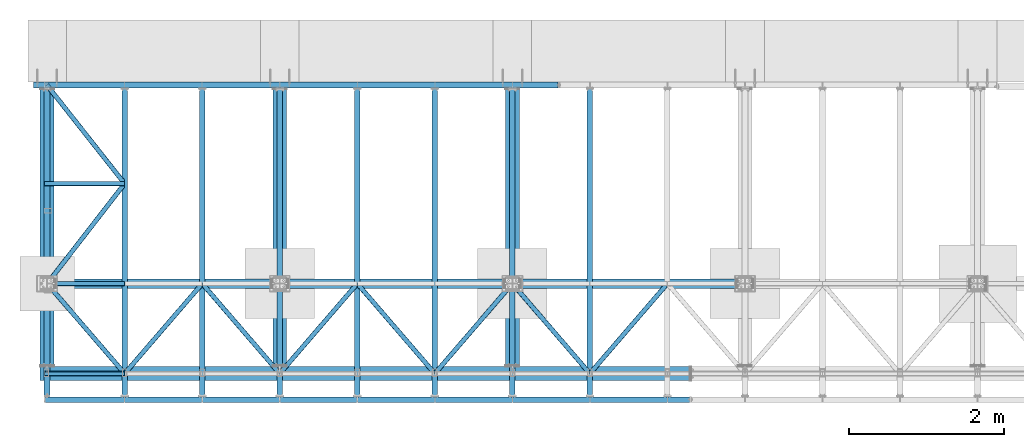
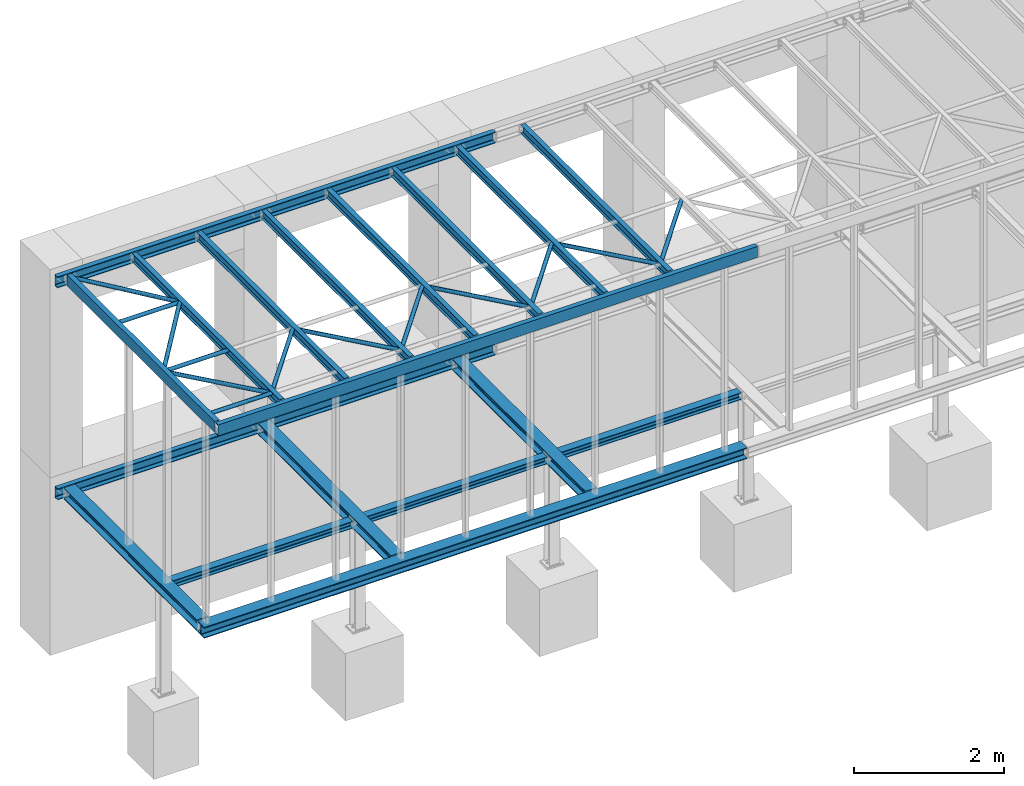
# One storey, part 3 of 23: 31 beams, 31 elements without a shape of their own.
"""IFC2X3 building model written with IfcOpenShell, lengths in millimetres."""

from ifc_helpers import new_model, si_unit, frame, origin_with_axes, origin_2d_with_axis, place, context, subcontext, project, spatial, hollow_circle, i_section, u_section, extrude, boolean, halfspace, material, type_object, element, aggregate, save


model = new_model("IFC2X3")

# Units and contexts
model_context = context("Model", 3, precision=1e-05, world=origin_with_axes())
body_context = subcontext(model_context, "Body", "Model", "MODEL_VIEW")
ifc_project = project(units=[si_unit("LENGTHUNIT", "METRE", prefix="MILLI"), si_unit("AREAUNIT", "SQUARE_METRE"), si_unit("VOLUMEUNIT", "CUBIC_METRE"), si_unit("MASSUNIT", "GRAM", prefix="KILO"), si_unit("TIMEUNIT", "SECOND"), si_unit("PLANEANGLEUNIT", "RADIAN"), si_unit("SOLIDANGLEUNIT", "STERADIAN"), si_unit("THERMODYNAMICTEMPERATUREUNIT", "DEGREE_CELSIUS"), si_unit("LUMINOUSINTENSITYUNIT", "LUMEN")], contexts=[model_context])

# Site, building, storey
site_placement = place(None, origin_with_axes())
site = spatial("IfcSite", under=ifc_project, at=site_placement, Name="Undefined", CompositionType="ELEMENT")
building_placement = place(site_placement, origin_with_axes())
building = spatial("IfcBuilding", under=site, at=building_placement, Name="Undefined", CompositionType="ELEMENT")
storey_placement = place(building_placement, origin_with_axes())
storey = spatial("IfcBuildingStorey", under=building, at=storey_placement, Name="Undefined", CompositionType="ELEMENT", Elevation=0.0)

# Assembly, beam
assembly_1_placement = place(storey_placement, origin_with_axes())
assembly_1 = element("IfcElementAssembly", 1, at=assembly_1_placement, inside=storey, Name="Steel Assembly", AssemblyPlace="NOTDEFINED", PredefinedType="RIGID_FRAME")
ifc_material = material(Name="STEEL/S235JR")
beam_type_1 = type_object("IfcBeamType", Name="CHS60.3*5", PredefinedType="NOTDEFINED")
beam_1_placement = place(assembly_1_placement, frame((15.5, 2550.0, 3230.0), z_axis=(0.0, 0.0, -1.0), x_axis=(1.0, 0.0, 0.0)))
beam_1 = element("IfcBeam", 2, at=beam_1_placement, type_object=beam_type_1, material=ifc_material, Name="NOSNÍK", ObjectType="CHS60.3*5", context=body_context, shape_type="SweptSolid", body=[
    extrude(hollow_circle(Radius=30.15, WallThickness=5.0, at=origin_2d_with_axis()), frame((1034.5, 0.0, 0.0), z_axis=(-1.0, 0.0, 0.0), x_axis=(0.0, -1.0, 0.0)), (0.0, 0.0, 1.0), 1034.5),
])
aggregate(assembly_1, [beam_1])

assembly_2_placement = place(storey_placement, origin_with_axes())
assembly_2 = element("IfcElementAssembly", 3, at=assembly_2_placement, inside=storey, Name="Steel Assembly", AssemblyPlace="NOTDEFINED", PredefinedType="RIGID_FRAME")
beam_2_placement = place(assembly_2_placement, frame((7050.0, 100.0, 3230.0), z_axis=(0.0, 0.0, -1.0), x_axis=(0.652939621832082, 0.757409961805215, 0.0)))
beam_2 = element("IfcBeam", 4, at=beam_2_placement, type_object=beam_type_1, material=ifc_material, Name="NOSNÍK", ObjectType="CHS60.3*5", context=body_context, shape_type="CSG", body=[
    boolean("DIFFERENCE", boolean("DIFFERENCE", boolean("DIFFERENCE", boolean("DIFFERENCE", extrude(hollow_circle(Radius=30.15, WallThickness=5.0, at=origin_2d_with_axis()), frame((1531.53517752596, -1.81898940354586e-12, 0.0), z_axis=(-1.0, 0.0, 0.0), x_axis=(0.0, -1.0, 0.0)), (0.0, 0.0, 1.0), 1531.5), extrude(hollow_circle(Radius=30.15, WallThickness=5.0, at=origin_2d_with_axis()), frame((1530.00076941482, -1.77991293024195, 0.0), z_axis=(-0.652939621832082, -0.757409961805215, 0.0), x_axis=(0.757409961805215, -0.652939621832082, 0.0)), (0.0, 0.0, 1.0), 995.3)), extrude(hollow_circle(Radius=30.15, WallThickness=5.0, at=origin_2d_with_axis()), frame((651.405213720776, 755.630048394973, 0.0), z_axis=(-0.652939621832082, -0.757409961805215, 0.0), x_axis=(0.757409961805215, -0.652939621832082, 0.0)), (0.0, 0.0, 1.0), 995.3)), halfspace(frame((1562.9100704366, -30.1499999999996, -30.1500000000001), z_axis=(0.652939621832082, 0.757409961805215, 0.0), x_axis=(0.0, 0.0, 1.0)), False)), halfspace(frame((-31.3748924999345, 30.1499999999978, -30.1500000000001), z_axis=(-0.652939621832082, -0.757409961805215, 0.0), x_axis=(0.0, 0.0, 1.0)), False)),
])
aggregate(assembly_2, [beam_2])

assembly_3_placement = place(storey_placement, origin_with_axes())
assembly_3 = element("IfcElementAssembly", 5, at=assembly_3_placement, inside=storey, Name="Steel Assembly", AssemblyPlace="NOTDEFINED", PredefinedType="RIGID_FRAME")
beam_3_placement = place(assembly_3_placement, frame((6049.99999972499, 1260.00000021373, 3230.0), z_axis=(0.0, 0.0, -1.0), x_axis=(0.652939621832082, -0.757409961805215, 0.0)))
beam_3 = element("IfcBeam", 6, at=beam_3_placement, type_object=beam_type_1, material=ifc_material, Name="NOSNÍK", ObjectType="CHS60.3*5", context=body_context, shape_type="CSG", body=[
    boolean("DIFFERENCE", boolean("DIFFERENCE", boolean("DIFFERENCE", boolean("DIFFERENCE", extrude(hollow_circle(Radius=30.15, WallThickness=5.0, at=origin_2d_with_axis()), frame((1531.53517752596, -1.81898940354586e-12, 0.0), z_axis=(-1.0, 0.0, 0.0), x_axis=(0.0, -1.0, 0.0)), (0.0, 0.0, 1.0), 1531.5), extrude(hollow_circle(Radius=30.15, WallThickness=5.0, at=origin_2d_with_axis()), frame((651.405214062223, -755.630048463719, 0.0), z_axis=(-0.652939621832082, 0.757409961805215, 0.0), x_axis=(-0.757409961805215, -0.652939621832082, 0.0)), (0.0, 0.0, 1.0), 995.3)), extrude(hollow_circle(Radius=30.15, WallThickness=5.0, at=origin_2d_with_axis()), frame((1530.00076975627, 1.77991286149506, 9.09494701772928e-13), z_axis=(-0.652939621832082, 0.757409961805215, 0.0), x_axis=(-0.757409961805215, -0.652939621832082, 0.0)), (0.0, 0.0, 1.0), 995.3)), halfspace(frame((38.5731081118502, 30.1499999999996, -30.1499999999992), z_axis=(-0.652939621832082, 0.757409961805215, 0.0), x_axis=(0.0, 0.0, 1.0)), False)), halfspace(frame((1562.91007051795, 30.1499999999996, 30.150000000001), z_axis=(0.652939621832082, -0.757409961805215, 0.0), x_axis=(0.0, 0.0, -1.0)), False)),
])
aggregate(assembly_3, [beam_3])

assembly_4_placement = place(storey_placement, origin_with_axes())
assembly_4 = element("IfcElementAssembly", 7, at=assembly_4_placement, inside=storey, Name="Steel Assembly", AssemblyPlace="NOTDEFINED", PredefinedType="RIGID_FRAME")
beam_4_placement = place(assembly_4_placement, frame((5050.0, 100.0, 3230.0), z_axis=(0.0, 0.0, -1.0), x_axis=(0.652939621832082, 0.757409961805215, 0.0)))
beam_4 = element("IfcBeam", 8, at=beam_4_placement, type_object=beam_type_1, material=ifc_material, Name="NOSNÍK", ObjectType="CHS60.3*5", context=body_context, shape_type="CSG", body=[
    boolean("DIFFERENCE", boolean("DIFFERENCE", boolean("DIFFERENCE", boolean("DIFFERENCE", extrude(hollow_circle(Radius=30.15, WallThickness=5.0, at=origin_2d_with_axis()), frame((1531.53517752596, -1.81898940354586e-12, 0.0), z_axis=(-1.0, 0.0, 0.0), x_axis=(0.0, -1.0, 0.0)), (0.0, 0.0, 1.0), 1531.5), extrude(hollow_circle(Radius=30.15, WallThickness=5.0, at=origin_2d_with_axis()), frame((1530.00076941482, -1.77991293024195, 0.0), z_axis=(-0.652939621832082, -0.757409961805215, 0.0), x_axis=(0.757409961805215, -0.652939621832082, 0.0)), (0.0, 0.0, 1.0), 995.3)), extrude(hollow_circle(Radius=30.15, WallThickness=5.0, at=origin_2d_with_axis()), frame((651.405213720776, 755.630048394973, 0.0), z_axis=(-0.652939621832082, -0.757409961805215, 0.0), x_axis=(0.757409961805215, -0.652939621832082, 0.0)), (0.0, 0.0, 1.0), 995.3)), halfspace(frame((1562.9100704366, -30.1499999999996, -30.1500000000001), z_axis=(0.652939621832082, 0.757409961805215, 0.0), x_axis=(0.0, 0.0, 1.0)), False)), halfspace(frame((-31.3748924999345, 30.1499999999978, -30.1500000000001), z_axis=(-0.652939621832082, -0.757409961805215, 0.0), x_axis=(0.0, 0.0, 1.0)), False)),
])
aggregate(assembly_4, [beam_4])

assembly_5_placement = place(storey_placement, origin_with_axes())
assembly_5 = element("IfcElementAssembly", 9, at=assembly_5_placement, inside=storey, Name="Steel Assembly", AssemblyPlace="NOTDEFINED", PredefinedType="RIGID_FRAME")
beam_5_placement = place(assembly_5_placement, frame((4049.99999972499, 1260.00000021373, 3230.0), z_axis=(0.0, 0.0, -1.0), x_axis=(0.652939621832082, -0.757409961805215, 0.0)))
beam_5 = element("IfcBeam", 10, at=beam_5_placement, type_object=beam_type_1, material=ifc_material, Name="NOSNÍK", ObjectType="CHS60.3*5", context=body_context, shape_type="CSG", body=[
    boolean("DIFFERENCE", boolean("DIFFERENCE", boolean("DIFFERENCE", boolean("DIFFERENCE", extrude(hollow_circle(Radius=30.15, WallThickness=5.0, at=origin_2d_with_axis()), frame((1531.53517752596, -1.81898940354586e-12, 0.0), z_axis=(-1.0, 0.0, 0.0), x_axis=(0.0, -1.0, 0.0)), (0.0, 0.0, 1.0), 1531.5), extrude(hollow_circle(Radius=30.15, WallThickness=5.0, at=origin_2d_with_axis()), frame((651.405214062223, -755.630048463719, 0.0), z_axis=(-0.652939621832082, 0.757409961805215, 0.0), x_axis=(-0.757409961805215, -0.652939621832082, 0.0)), (0.0, 0.0, 1.0), 995.3)), extrude(hollow_circle(Radius=30.15, WallThickness=5.0, at=origin_2d_with_axis()), frame((1530.00076975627, 1.77991286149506, 9.09494701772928e-13), z_axis=(-0.652939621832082, 0.757409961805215, 0.0), x_axis=(-0.757409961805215, -0.652939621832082, 0.0)), (0.0, 0.0, 1.0), 995.3)), halfspace(frame((38.5731081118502, 30.1499999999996, -30.1499999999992), z_axis=(-0.652939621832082, 0.757409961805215, 0.0), x_axis=(0.0, 0.0, 1.0)), False)), halfspace(frame((1562.91007051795, 30.1499999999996, 30.150000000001), z_axis=(0.652939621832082, -0.757409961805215, 0.0), x_axis=(0.0, 0.0, -1.0)), False)),
])
aggregate(assembly_5, [beam_5])

assembly_6_placement = place(storey_placement, origin_with_axes())
assembly_6 = element("IfcElementAssembly", 11, at=assembly_6_placement, inside=storey, Name="Steel Assembly", AssemblyPlace="NOTDEFINED", PredefinedType="RIGID_FRAME")
beam_6_placement = place(assembly_6_placement, frame((3050.0, 100.0, 3230.0), z_axis=(0.0, 0.0, -1.0), x_axis=(0.652939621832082, 0.757409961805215, 0.0)))
beam_6 = element("IfcBeam", 12, at=beam_6_placement, type_object=beam_type_1, material=ifc_material, Name="NOSNÍK", ObjectType="CHS60.3*5", context=body_context, shape_type="CSG", body=[
    boolean("DIFFERENCE", boolean("DIFFERENCE", boolean("DIFFERENCE", boolean("DIFFERENCE", extrude(hollow_circle(Radius=30.15, WallThickness=5.0, at=origin_2d_with_axis()), frame((1531.53517752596, -1.81898940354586e-12, 0.0), z_axis=(-1.0, 0.0, 0.0), x_axis=(0.0, -1.0, 0.0)), (0.0, 0.0, 1.0), 1531.5), extrude(hollow_circle(Radius=30.15, WallThickness=5.0, at=origin_2d_with_axis()), frame((1530.00076941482, -1.77991293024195, 0.0), z_axis=(-0.652939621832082, -0.757409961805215, 0.0), x_axis=(0.757409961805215, -0.652939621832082, 0.0)), (0.0, 0.0, 1.0), 995.3)), extrude(hollow_circle(Radius=30.15, WallThickness=5.0, at=origin_2d_with_axis()), frame((651.405213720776, 755.630048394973, 0.0), z_axis=(-0.652939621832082, -0.757409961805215, 0.0), x_axis=(0.757409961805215, -0.652939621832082, 0.0)), (0.0, 0.0, 1.0), 995.3)), halfspace(frame((1562.9100704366, -30.1499999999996, -30.1500000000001), z_axis=(0.652939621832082, 0.757409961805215, 0.0), x_axis=(0.0, 0.0, 1.0)), False)), halfspace(frame((-31.3748924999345, 30.1499999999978, -30.1500000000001), z_axis=(-0.652939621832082, -0.757409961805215, 0.0), x_axis=(0.0, 0.0, 1.0)), False)),
])
aggregate(assembly_6, [beam_6])

assembly_7_placement = place(storey_placement, origin_with_axes())
assembly_7 = element("IfcElementAssembly", 13, at=assembly_7_placement, inside=storey, Name="Steel Assembly", AssemblyPlace="NOTDEFINED", PredefinedType="RIGID_FRAME")
beam_7_placement = place(assembly_7_placement, frame((2049.99999972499, 1260.00000021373, 3230.0), z_axis=(0.0, 0.0, -1.0), x_axis=(0.652939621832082, -0.757409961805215, 0.0)))
beam_7 = element("IfcBeam", 14, at=beam_7_placement, type_object=beam_type_1, material=ifc_material, Name="NOSNÍK", ObjectType="CHS60.3*5", context=body_context, shape_type="CSG", body=[
    boolean("DIFFERENCE", boolean("DIFFERENCE", boolean("DIFFERENCE", boolean("DIFFERENCE", extrude(hollow_circle(Radius=30.15, WallThickness=5.0, at=origin_2d_with_axis()), frame((1531.53517752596, -1.81898940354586e-12, 0.0), z_axis=(-1.0, 0.0, 0.0), x_axis=(0.0, -1.0, 0.0)), (0.0, 0.0, 1.0), 1531.5), extrude(hollow_circle(Radius=30.15, WallThickness=5.0, at=origin_2d_with_axis()), frame((651.405214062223, -755.630048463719, 0.0), z_axis=(-0.652939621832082, 0.757409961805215, 0.0), x_axis=(-0.757409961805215, -0.652939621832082, 0.0)), (0.0, 0.0, 1.0), 995.3)), extrude(hollow_circle(Radius=30.15, WallThickness=5.0, at=origin_2d_with_axis()), frame((1530.00076975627, 1.77991286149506, 9.09494701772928e-13), z_axis=(-0.652939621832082, 0.757409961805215, 0.0), x_axis=(-0.757409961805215, -0.652939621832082, 0.0)), (0.0, 0.0, 1.0), 995.3)), halfspace(frame((38.5731081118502, 30.1499999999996, -30.1499999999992), z_axis=(-0.652939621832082, 0.757409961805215, 0.0), x_axis=(0.0, 0.0, 1.0)), False)), halfspace(frame((1562.91007051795, 30.1499999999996, 30.150000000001), z_axis=(0.652939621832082, -0.757409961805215, 0.0), x_axis=(0.0, 0.0, -1.0)), False)),
])
aggregate(assembly_7, [beam_7])

assembly_8_placement = place(storey_placement, origin_with_axes())
assembly_8 = element("IfcElementAssembly", 15, at=assembly_8_placement, inside=storey, Name="Steel Assembly", AssemblyPlace="NOTDEFINED", PredefinedType="RIGID_FRAME")
beam_8_placement = place(assembly_8_placement, frame((1050.0, 100.0, 3230.0), z_axis=(0.0, 0.0, -1.0), x_axis=(0.652939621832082, 0.757409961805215, 0.0)))
beam_8 = element("IfcBeam", 16, at=beam_8_placement, type_object=beam_type_1, material=ifc_material, Name="NOSNÍK", ObjectType="CHS60.3*5", context=body_context, shape_type="CSG", body=[
    boolean("DIFFERENCE", boolean("DIFFERENCE", boolean("DIFFERENCE", boolean("DIFFERENCE", extrude(hollow_circle(Radius=30.15, WallThickness=5.0, at=origin_2d_with_axis()), frame((1531.53517752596, -1.81898940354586e-12, 0.0), z_axis=(-1.0, 0.0, 0.0), x_axis=(0.0, -1.0, 0.0)), (0.0, 0.0, 1.0), 1531.5), extrude(hollow_circle(Radius=30.15, WallThickness=5.0, at=origin_2d_with_axis()), frame((1530.00076941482, -1.77991293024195, 0.0), z_axis=(-0.652939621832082, -0.757409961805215, 0.0), x_axis=(0.757409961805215, -0.652939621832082, 0.0)), (0.0, 0.0, 1.0), 995.3)), extrude(hollow_circle(Radius=30.15, WallThickness=5.0, at=origin_2d_with_axis()), frame((652.939621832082, 757.409961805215, 9.09494701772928e-13), z_axis=(-0.652939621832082, -0.757409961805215, 0.0), x_axis=(0.757409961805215, -0.652939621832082, 0.0)), (0.0, 0.0, 1.0), 997.7)), halfspace(frame((1562.9100704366, -30.1499999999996, -30.1500000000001), z_axis=(0.652939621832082, 0.757409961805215, 0.0), x_axis=(0.0, 0.0, 1.0)), False)), halfspace(frame((-31.3748924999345, 30.1499999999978, -30.1500000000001), z_axis=(-0.652939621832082, -0.757409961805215, 0.0), x_axis=(0.0, 0.0, 1.0)), False)),
])
aggregate(assembly_8, [beam_8])

assembly_9_placement = place(storey_placement, origin_with_axes())
assembly_9 = element("IfcElementAssembly", 17, at=assembly_9_placement, inside=storey, Name="Steel Assembly", AssemblyPlace="NOTDEFINED", PredefinedType="RIGID_FRAME")
beam_9_placement = place(assembly_9_placement, frame((53.4274012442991, 1256.00000021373, 3230.0), z_axis=(0.0, 0.0, -1.0), x_axis=(0.652939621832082, -0.757409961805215, 0.0)))
beam_9 = element("IfcBeam", 18, at=beam_9_placement, type_object=beam_type_1, material=ifc_material, Name="NOSNÍK", ObjectType="CHS60.3*5", context=body_context, shape_type="CSG", body=[
    boolean("DIFFERENCE", boolean("DIFFERENCE", boolean("DIFFERENCE", extrude(hollow_circle(Radius=30.15, WallThickness=5.0, at=origin_2d_with_axis()), frame((1531.53517752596, -1.81898940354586e-12, 0.0), z_axis=(-1.0, 0.0, 0.0), x_axis=(0.0, -1.0, 0.0)), (0.0, 0.0, 1.0), 1531.5), extrude(hollow_circle(Radius=30.15, WallThickness=5.0, at=origin_2d_with_axis()), frame((1524.73324365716, 1.76410242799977, 4.54747350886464e-13), z_axis=(-0.652939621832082, 0.757409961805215, 0.0), x_axis=(-0.757409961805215, -0.652939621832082, 0.0)), (0.0, 0.0, 1.0), 1032.2)), extrude(hollow_circle(Radius=30.15, WallThickness=5.0, at=origin_2d_with_axis()), frame((647.67209607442, -757.425772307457, 4.54747350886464e-13), z_axis=(-0.652939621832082, 0.757409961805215, 0.0), x_axis=(-0.757409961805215, -0.652939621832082, 0.0)), (0.0, 0.0, 1.0), 1034.5)), halfspace(frame((1557.66088500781, 30.1500000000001, 30.1500000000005), z_axis=(0.652939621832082, -0.757409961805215, 0.0), x_axis=(0.0, 0.0, -1.0)), False)),
])
aggregate(assembly_9, [beam_9])

assembly_10_placement = place(storey_placement, origin_with_axes())
assembly_10 = element("IfcElementAssembly", 19, at=assembly_10_placement, inside=storey, Name="Steel Assembly", AssemblyPlace="NOTDEFINED", PredefinedType="RIGID_FRAME")
beam_10_placement = place(assembly_10_placement, frame((15.5, 100.0, 3230.0), z_axis=(0.0, 0.0, -1.0), x_axis=(1.0, 0.0, 0.0)))
beam_10 = element("IfcBeam", 20, at=beam_10_placement, type_object=beam_type_1, material=ifc_material, Name="NOSNÍK", ObjectType="CHS60.3*5", context=body_context, shape_type="SweptSolid", body=[
    extrude(hollow_circle(Radius=30.15, WallThickness=5.0, at=origin_2d_with_axis()), frame((1032.15, 0.0, 0.0), z_axis=(-1.0, 0.0, 0.0), x_axis=(0.0, -1.0, 0.0)), (0.0, 0.0, 1.0), 1032.2),
])
aggregate(assembly_10, [beam_10])

assembly_11_placement = place(storey_placement, origin_with_axes())
assembly_11 = element("IfcElementAssembly", 21, at=assembly_11_placement, inside=storey, Name="Steel Assembly", AssemblyPlace="NOTDEFINED", PredefinedType="RIGID_FRAME")
beam_11_placement = place(assembly_11_placement, frame((1050.00000007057, 2550.00000005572, 3230.00000000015), z_axis=(0.0, 0.0, 1.0), x_axis=(-0.612667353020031, -0.79034088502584, 0.0)))
beam_11 = element("IfcBeam", 22, at=beam_11_placement, type_object=beam_type_1, material=ifc_material, Name="NOSNÍK", ObjectType="CHS60.3*5", context=body_context, shape_type="CSG", body=[
    boolean("DIFFERENCE", boolean("DIFFERENCE", boolean("DIFFERENCE", extrude(hollow_circle(Radius=30.15, WallThickness=5.0, at=origin_2d_with_axis()), frame((1632.20709478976, -2.71817084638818e-13, 0.0), z_axis=(-1.0, 0.0, 0.0), x_axis=(0.0, -1.0, 0.0)), (0.0, 0.0, 1.0), 1632.2), extrude(hollow_circle(Radius=30.15, WallThickness=5.0, at=origin_2d_with_axis()), frame((1019.5397417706, 790.340885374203, -1.50976120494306e-10), z_axis=(0.612667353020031, -0.79034088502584, 0.0), x_axis=(-0.79034088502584, -0.612667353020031, 0.0)), (0.0, 0.0, 1.0), 1034.5)), extrude(hollow_circle(Radius=30.15, WallThickness=5.0, at=origin_2d_with_axis()), frame((0.0, 0.0, 0.0), z_axis=(0.612667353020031, -0.79034088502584, 0.0), x_axis=(-0.79034088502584, -0.612667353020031, 0.0)), (0.0, 0.0, 1.0), 1034.5)), halfspace(frame((42.7291866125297, 30.15, -30.1500000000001), z_axis=(-0.612667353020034, 0.790340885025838, 0.0), x_axis=(0.0, 0.0, 1.0)), False)),
])
aggregate(assembly_11, [beam_11])

assembly_12_placement = place(storey_placement, origin_with_axes())
assembly_12 = element("IfcElementAssembly", 23, at=assembly_12_placement, inside=storey, Name="Steel Assembly", AssemblyPlace="NOTDEFINED", PredefinedType="RIGID_FRAME")
beam_12_placement = place(assembly_12_placement, frame((47.5000000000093, 3820.0, 3230.0), z_axis=(0.0, 0.0, -1.0), x_axis=(0.619594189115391, -0.784922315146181, 0.0)))
beam_12 = element("IfcBeam", 24, at=beam_12_placement, type_object=beam_type_1, material=ifc_material, Name="NOSNÍK", ObjectType="CHS60.3*5", context=body_context, shape_type="CSG", body=[
    boolean("DIFFERENCE", boolean("DIFFERENCE", extrude(hollow_circle(Radius=30.15, WallThickness=5.0, at=origin_2d_with_axis()), frame((1617.99451482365, 0.0, 0.0), z_axis=(-1.0, 0.0, 0.0), x_axis=(0.0, -1.0, 0.0)), (0.0, 0.0, 1.0), 1618.0), extrude(hollow_circle(Radius=30.15, WallThickness=5.0, at=origin_2d_with_axis()), frame((1617.99451482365, 0.0, 0.0), z_axis=(-0.619594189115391, 0.784922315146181, 0.0), x_axis=(-0.784922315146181, -0.619594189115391, 0.0)), (0.0, 0.0, 1.0), 1034.5)), halfspace(frame((1652.39672334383, 30.1499999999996, 30.1500000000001), z_axis=(0.619594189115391, -0.784922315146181, 0.0), x_axis=(0.0, 0.0, -1.0)), False)),
])
aggregate(assembly_12, [beam_12])

assembly_13_placement = place(storey_placement, origin_with_axes())
assembly_13 = element("IfcElementAssembly", 25, at=assembly_13_placement, inside=storey, Name="Steel Assembly", AssemblyPlace="NOTDEFINED", PredefinedType="RIGID_FRAME")
beam_13_placement = place(assembly_13_placement, frame((15.5, 1260.0, 3230.0), z_axis=(0.0, 0.0, -1.0), x_axis=(1.0, 0.0, 0.0)))
beam_13 = element("IfcBeam", 26, at=beam_13_placement, type_object=beam_type_1, material=ifc_material, Name="NOSNÍK", ObjectType="CHS60.3*5", context=body_context, shape_type="SweptSolid", body=[
    extrude(hollow_circle(Radius=30.15, WallThickness=5.0, at=origin_2d_with_axis()), frame((1032.15, 0.0, 0.0), z_axis=(-1.0, 0.0, 0.0), x_axis=(0.0, -1.0, 0.0)), (0.0, 0.0, 1.0), 1032.2),
])
aggregate(assembly_13, [beam_13])

assembly_14_placement = place(storey_placement, origin_with_axes())
assembly_14 = element("IfcElementAssembly", 27, at=assembly_14_placement, inside=storey, Name="Steel Assembly", AssemblyPlace="NOTDEFINED", PredefinedType="RIGID_FRAME")
beam_type_2 = type_object("IfcBeamType", Name="UPE180", PredefinedType="NOTDEFINED")
beam_14_placement = place(assembly_14_placement, frame((47.5, -180.0, 3210.0), z_axis=(0.0, 0.0, 1.0), x_axis=(0.0, 1.0, 0.0)))
beam_14 = element("IfcBeam", 28, at=beam_14_placement, type_object=beam_type_2, material=ifc_material, Name="NOSNÍK", ObjectType="UPE180", context=body_context, shape_type="SweptSolid", body=[
    extrude(u_section(Depth=180.0, FlangeWidth=75.0, WebThickness=5.5, FlangeThickness=10.5, FilletRadius=12.0, at=origin_2d_with_axis()), frame((3945.0, 0.0, 0.0), z_axis=(-1.0, 0.0, 0.0), x_axis=(0.0, -1.0, 0.0)), (0.0, 0.0, 1.0), 3945.0),
])
aggregate(assembly_14, [beam_14])

assembly_15_placement = place(storey_placement, origin_with_axes())
assembly_15 = element("IfcElementAssembly", 29, at=assembly_15_placement, inside=storey, Name="Steel Assembly", AssemblyPlace="NOTDEFINED", PredefinedType="RIGID_FRAME")
beam_15_placement = place(assembly_15_placement, frame((8340.0, -237.5, 3210.0), z_axis=(0.0, 0.0, 1.0), x_axis=(-1.0, 0.0, 0.0)))
beam_15 = element("IfcBeam", 30, at=beam_15_placement, type_object=beam_type_2, material=ifc_material, Name="NOSNÍK", ObjectType="UPE180", context=body_context, shape_type="SweptSolid", body=[
    extrude(u_section(Depth=180.0, FlangeWidth=75.0, WebThickness=5.5, FlangeThickness=10.5, FilletRadius=12.0, at=origin_2d_with_axis()), frame((8330.0, 0.0, 0.0), z_axis=(-1.0, 0.0, 0.0), x_axis=(0.0, -1.0, 0.0)), (0.0, 0.0, 1.0), 8330.0),
])
aggregate(assembly_15, [beam_15])

assembly_16_placement = place(storey_placement, origin_with_axes())
assembly_16 = element("IfcElementAssembly", 31, at=assembly_16_placement, inside=storey, Name="Steel Assembly", AssemblyPlace="NOTDEFINED", PredefinedType="RIGID_FRAME")
beam_16_placement = place(assembly_16_placement, frame((6640.0, 3822.5, 3210.0), z_axis=(0.0, 0.0, -1.0), x_axis=(-1.0, 0.0, 0.0)))
beam_16 = element("IfcBeam", 32, at=beam_16_placement, type_object=beam_type_2, material=ifc_material, Name="NOSNÍK", ObjectType="UPE180", context=body_context, shape_type="SweptSolid", body=[
    extrude(u_section(Depth=180.0, FlangeWidth=75.0, WebThickness=5.5, FlangeThickness=10.5, FilletRadius=12.0, at=origin_2d_with_axis()), frame((6765.0, 0.0, 0.0), z_axis=(-1.0, 0.0, 0.0), x_axis=(0.0, -1.0, 0.0)), (0.0, 0.0, 1.0), 6765.0),
])
aggregate(assembly_16, [beam_16])

assembly_17_placement = place(storey_placement, origin_with_axes())
assembly_17 = element("IfcElementAssembly", 33, at=assembly_17_placement, inside=storey, Name="Steel Assembly", AssemblyPlace="NOTDEFINED", PredefinedType="RIGID_FRAME")
beam_17_placement = place(assembly_17_placement, frame((6640.0, 3822.5, -250.0), z_axis=(0.0, 0.0, -1.0), x_axis=(-1.0, 0.0, 0.0)))
beam_17 = element("IfcBeam", 34, at=beam_17_placement, type_object=beam_type_2, material=ifc_material, Name="NOSNÍK", ObjectType="UPE180", context=body_context, shape_type="SweptSolid", body=[
    extrude(u_section(Depth=180.0, FlangeWidth=75.0, WebThickness=5.5, FlangeThickness=10.5, FilletRadius=12.0, at=origin_2d_with_axis()), frame((6765.0, 0.0, 0.0), z_axis=(-1.0, 0.0, 0.0), x_axis=(0.0, -1.0, 0.0)), (0.0, 0.0, 1.0), 6765.0),
])
aggregate(assembly_17, [beam_17])

assembly_18_placement = place(storey_placement, origin_with_axes())
assembly_18 = element("IfcElementAssembly", 35, at=assembly_18_placement, inside=storey, Name="Steel Assembly", AssemblyPlace="NOTDEFINED", PredefinedType="RIGID_FRAME")
beam_type_3 = type_object("IfcBeamType", Name="HEB180", PredefinedType="NOTDEFINED")
beam_18_placement = place(assembly_18_placement, frame((6050.0, 3767.0, -250.0), z_axis=(0.0, 0.0, 1.0), x_axis=(0.0, -1.0, 0.0)))
beam_18 = element("IfcBeam", 36, at=beam_18_placement, type_object=beam_type_3, material=ifc_material, Name="NOSNÍK", ObjectType="HEB180", context=body_context, shape_type="SweptSolid", body=[
    extrude(i_section(OverallWidth=180.0, OverallDepth=180.0, WebThickness=8.5, FlangeThickness=14.0, FilletRadius=15.0, at=origin_2d_with_axis()), frame((3557.0, 0.0, 0.0), z_axis=(-1.0, 0.0, 0.0), x_axis=(0.0, -1.0, 0.0)), (0.0, 0.0, 1.0), 3557.0),
])
aggregate(assembly_18, [beam_18])

assembly_19_placement = place(storey_placement, origin_with_axes())
assembly_19 = element("IfcElementAssembly", 37, at=assembly_19_placement, inside=storey, Name="Steel Assembly", AssemblyPlace="NOTDEFINED", PredefinedType="RIGID_FRAME")
beam_19_placement = place(assembly_19_placement, frame((3050.0, 3767.0, -250.0), z_axis=(0.0, 0.0, 1.0), x_axis=(0.0, -1.0, 0.0)))
beam_19 = element("IfcBeam", 38, at=beam_19_placement, type_object=beam_type_3, material=ifc_material, Name="NOSNÍK", ObjectType="HEB180", context=body_context, shape_type="SweptSolid", body=[
    extrude(i_section(OverallWidth=180.0, OverallDepth=180.0, WebThickness=8.5, FlangeThickness=14.0, FilletRadius=15.0, at=origin_2d_with_axis()), frame((3557.0, 0.0, 0.0), z_axis=(-1.0, 0.0, 0.0), x_axis=(0.0, -1.0, 0.0)), (0.0, 0.0, 1.0), 3557.0),
])
aggregate(assembly_19, [beam_19])

assembly_20_placement = place(storey_placement, origin_with_axes())
assembly_20 = element("IfcElementAssembly", 39, at=assembly_20_placement, inside=storey, Name="Steel Assembly", AssemblyPlace="NOTDEFINED", PredefinedType="RIGID_FRAME")
beam_20_placement = place(assembly_20_placement, frame((50.0, 210.0, -250.0), z_axis=(0.0, 0.0, 1.0), x_axis=(0.0, 1.0, 0.0)))
beam_20 = element("IfcBeam", 40, at=beam_20_placement, type_object=beam_type_3, material=ifc_material, Name="NOSNÍK", ObjectType="HEB180", context=body_context, shape_type="SweptSolid", body=[
    extrude(i_section(OverallWidth=180.0, OverallDepth=180.0, WebThickness=8.5, FlangeThickness=14.0, FilletRadius=15.0, at=origin_2d_with_axis()), frame((3557.0, 0.0, 0.0), z_axis=(-1.0, 0.0, 0.0), x_axis=(0.0, -1.0, 0.0)), (0.0, 0.0, 1.0), 3557.0),
])
aggregate(assembly_20, [beam_20])

assembly_21_placement = place(storey_placement, origin_with_axes())
assembly_21 = element("IfcElementAssembly", 41, at=assembly_21_placement, inside=storey, Name="Steel Assembly", AssemblyPlace="NOTDEFINED", PredefinedType="RIGID_FRAME")
beam_21_placement = place(assembly_21_placement, frame((-40.0, 100.0, -250.0), z_axis=(0.0, 0.0, -1.0), x_axis=(1.0, 0.0, 0.0)))
beam_21 = element("IfcBeam", 42, at=beam_21_placement, type_object=beam_type_3, material=ifc_material, Name="NOSNÍK", ObjectType="HEB180", context=body_context, shape_type="SweptSolid", body=[
    extrude(i_section(OverallWidth=180.0, OverallDepth=180.0, WebThickness=8.5, FlangeThickness=14.0, FilletRadius=15.0, at=origin_2d_with_axis()), frame((8380.0, 0.0, 0.0), z_axis=(-1.0, 0.0, 0.0), x_axis=(0.0, -1.0, 0.0)), (0.0, 0.0, 1.0), 8380.0),
])
aggregate(assembly_21, [beam_21])

assembly_22_placement = place(storey_placement, origin_with_axes())
assembly_22 = element("IfcElementAssembly", 43, at=assembly_22_placement, inside=storey, Name="Steel Assembly", AssemblyPlace="NOTDEFINED", PredefinedType="RIGID_FRAME")
beam_type_4 = type_object("IfcBeamType", Name="HEA120", PredefinedType="NOTDEFINED")
beam_22_placement = place(assembly_22_placement, frame((6160.0, 1260.0, -250.0), z_axis=(0.0, 0.0, -1.0), x_axis=(1.0, 0.0, 0.0)))
beam_22 = element("IfcBeam", 44, at=beam_22_placement, type_object=beam_type_4, material=ifc_material, Name="NOSNÍK", ObjectType="HEA120", context=body_context, shape_type="SweptSolid", body=[
    extrude(i_section(OverallWidth=120.0, OverallDepth=114.0, WebThickness=5.0, FlangeThickness=8.0, FilletRadius=12.0, at=origin_2d_with_axis()), frame((2780.0, 0.0, 0.0), z_axis=(-1.0, 0.0, 0.0), x_axis=(0.0, -1.0, 0.0)), (0.0, 0.0, 1.0), 2780.0),
])
aggregate(assembly_22, [beam_22])

assembly_23_placement = place(storey_placement, origin_with_axes())
assembly_23 = element("IfcElementAssembly", 45, at=assembly_23_placement, inside=storey, Name="Steel Assembly", AssemblyPlace="NOTDEFINED", PredefinedType="RIGID_FRAME")
beam_23_placement = place(assembly_23_placement, frame((3160.0, 1260.0, -250.0), z_axis=(0.0, 0.0, -1.0), x_axis=(1.0, 0.0, 0.0)))
beam_23 = element("IfcBeam", 46, at=beam_23_placement, type_object=beam_type_4, material=ifc_material, Name="NOSNÍK", ObjectType="HEA120", context=body_context, shape_type="SweptSolid", body=[
    extrude(i_section(OverallWidth=120.0, OverallDepth=114.0, WebThickness=5.0, FlangeThickness=8.0, FilletRadius=12.0, at=origin_2d_with_axis()), frame((2780.0, 0.0, 0.0), z_axis=(-1.0, 0.0, 0.0), x_axis=(0.0, -1.0, 0.0)), (0.0, 0.0, 1.0), 2780.0),
])
aggregate(assembly_23, [beam_23])

assembly_24_placement = place(storey_placement, origin_with_axes())
assembly_24 = element("IfcElementAssembly", 47, at=assembly_24_placement, inside=storey, Name="Steel Assembly", AssemblyPlace="NOTDEFINED", PredefinedType="RIGID_FRAME")
beam_24_placement = place(assembly_24_placement, frame((160.0, 1260.0, -250.0), z_axis=(0.0, 0.0, -1.0), x_axis=(1.0, 0.0, 0.0)))
beam_24 = element("IfcBeam", 48, at=beam_24_placement, type_object=beam_type_4, material=ifc_material, Name="NOSNÍK", ObjectType="HEA120", context=body_context, shape_type="SweptSolid", body=[
    extrude(i_section(OverallWidth=120.0, OverallDepth=114.0, WebThickness=5.0, FlangeThickness=8.0, FilletRadius=12.0, at=origin_2d_with_axis()), frame((2780.0, 0.0, 0.0), z_axis=(-1.0, 0.0, 0.0), x_axis=(0.0, -1.0, 0.0)), (0.0, 0.0, 1.0), 2780.0),
])
aggregate(assembly_24, [beam_24])

assembly_25_placement = place(storey_placement, origin_with_axes())
assembly_25 = element("IfcElementAssembly", 49, at=assembly_25_placement, inside=storey, Name="Steel Assembly", AssemblyPlace="NOTDEFINED", PredefinedType="RIGID_FRAME")
beam_type_5 = type_object("IfcBeamType", Name="IPE140", PredefinedType="NOTDEFINED")
beam_25_placement = place(assembly_25_placement, frame((1050.0, -180.0, 3230.0), z_axis=(0.0, 0.0, 1.0), x_axis=(0.0, 1.0, 0.0)))
beam_25 = element("IfcBeam", 50, at=beam_25_placement, type_object=beam_type_5, material=ifc_material, Name="NOSNÍK", ObjectType="IPE140", context=body_context, shape_type="SweptSolid", body=[
    extrude(i_section(OverallWidth=73.0, OverallDepth=140.0, WebThickness=4.699999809, FlangeThickness=6.900000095, FilletRadius=7.0, at=origin_2d_with_axis()), frame((3947.0, 0.0, 0.0), z_axis=(-1.0, 0.0, 0.0), x_axis=(0.0, -1.0, 0.0)), (0.0, 0.0, 1.0), 3947.0),
])
aggregate(assembly_25, [beam_25])

assembly_26_placement = place(storey_placement, origin_with_axes())
assembly_26 = element("IfcElementAssembly", 51, at=assembly_26_placement, inside=storey, Name="Steel Assembly", AssemblyPlace="NOTDEFINED", PredefinedType="RIGID_FRAME")
beam_26_placement = place(assembly_26_placement, frame((2050.0, -180.0, 3230.0), z_axis=(0.0, 0.0, 1.0), x_axis=(0.0, 1.0, 0.0)))
beam_26 = element("IfcBeam", 52, at=beam_26_placement, type_object=beam_type_5, material=ifc_material, Name="NOSNÍK", ObjectType="IPE140", context=body_context, shape_type="SweptSolid", body=[
    extrude(i_section(OverallWidth=73.0, OverallDepth=140.0, WebThickness=4.699999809, FlangeThickness=6.900000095, FilletRadius=7.0, at=origin_2d_with_axis()), frame((3947.0, 0.0, 0.0), z_axis=(-1.0, 0.0, 0.0), x_axis=(0.0, -1.0, 0.0)), (0.0, 0.0, 1.0), 3947.0),
])
aggregate(assembly_26, [beam_26])

assembly_27_placement = place(storey_placement, origin_with_axes())
assembly_27 = element("IfcElementAssembly", 53, at=assembly_27_placement, inside=storey, Name="Steel Assembly", AssemblyPlace="NOTDEFINED", PredefinedType="RIGID_FRAME")
beam_27_placement = place(assembly_27_placement, frame((3050.0, -180.0, 3230.0), z_axis=(0.0, 0.0, 1.0), x_axis=(0.0, 1.0, 0.0)))
beam_27 = element("IfcBeam", 54, at=beam_27_placement, type_object=beam_type_5, material=ifc_material, Name="NOSNÍK", ObjectType="IPE140", context=body_context, shape_type="SweptSolid", body=[
    extrude(i_section(OverallWidth=73.0, OverallDepth=140.0, WebThickness=4.699999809, FlangeThickness=6.900000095, FilletRadius=7.0, at=origin_2d_with_axis()), frame((3947.0, 0.0, 0.0), z_axis=(-1.0, 0.0, 0.0), x_axis=(0.0, -1.0, 0.0)), (0.0, 0.0, 1.0), 3947.0),
])
aggregate(assembly_27, [beam_27])

assembly_28_placement = place(storey_placement, origin_with_axes())
assembly_28 = element("IfcElementAssembly", 55, at=assembly_28_placement, inside=storey, Name="Steel Assembly", AssemblyPlace="NOTDEFINED", PredefinedType="RIGID_FRAME")
beam_28_placement = place(assembly_28_placement, frame((4050.0, -180.0, 3230.0), z_axis=(0.0, 0.0, 1.0), x_axis=(0.0, 1.0, 0.0)))
beam_28 = element("IfcBeam", 56, at=beam_28_placement, type_object=beam_type_5, material=ifc_material, Name="NOSNÍK", ObjectType="IPE140", context=body_context, shape_type="SweptSolid", body=[
    extrude(i_section(OverallWidth=73.0, OverallDepth=140.0, WebThickness=4.699999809, FlangeThickness=6.900000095, FilletRadius=7.0, at=origin_2d_with_axis()), frame((3947.0, 0.0, 0.0), z_axis=(-1.0, 0.0, 0.0), x_axis=(0.0, -1.0, 0.0)), (0.0, 0.0, 1.0), 3947.0),
])
aggregate(assembly_28, [beam_28])

assembly_29_placement = place(storey_placement, origin_with_axes())
assembly_29 = element("IfcElementAssembly", 57, at=assembly_29_placement, inside=storey, Name="Steel Assembly", AssemblyPlace="NOTDEFINED", PredefinedType="RIGID_FRAME")
beam_29_placement = place(assembly_29_placement, frame((5050.0, -180.0, 3230.0), z_axis=(0.0, 0.0, 1.0), x_axis=(0.0, 1.0, 0.0)))
beam_29 = element("IfcBeam", 58, at=beam_29_placement, type_object=beam_type_5, material=ifc_material, Name="NOSNÍK", ObjectType="IPE140", context=body_context, shape_type="SweptSolid", body=[
    extrude(i_section(OverallWidth=73.0, OverallDepth=140.0, WebThickness=4.699999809, FlangeThickness=6.900000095, FilletRadius=7.0, at=origin_2d_with_axis()), frame((3947.0, 0.0, 0.0), z_axis=(-1.0, 0.0, 0.0), x_axis=(0.0, -1.0, 0.0)), (0.0, 0.0, 1.0), 3947.0),
])
aggregate(assembly_29, [beam_29])

assembly_30_placement = place(storey_placement, origin_with_axes())
assembly_30 = element("IfcElementAssembly", 59, at=assembly_30_placement, inside=storey, Name="Steel Assembly", AssemblyPlace="NOTDEFINED", PredefinedType="RIGID_FRAME")
beam_30_placement = place(assembly_30_placement, frame((6050.0, -180.0, 3230.0), z_axis=(0.0, 0.0, 1.0), x_axis=(0.0, 1.0, 0.0)))
beam_30 = element("IfcBeam", 60, at=beam_30_placement, type_object=beam_type_5, material=ifc_material, Name="NOSNÍK", ObjectType="IPE140", context=body_context, shape_type="SweptSolid", body=[
    extrude(i_section(OverallWidth=73.0, OverallDepth=140.0, WebThickness=4.699999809, FlangeThickness=6.900000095, FilletRadius=7.0, at=origin_2d_with_axis()), frame((3947.0, 0.0, 0.0), z_axis=(-1.0, 0.0, 0.0), x_axis=(0.0, -1.0, 0.0)), (0.0, 0.0, 1.0), 3947.0),
])
aggregate(assembly_30, [beam_30])

assembly_31_placement = place(storey_placement, origin_with_axes())
assembly_31 = element("IfcElementAssembly", 61, at=assembly_31_placement, inside=storey, Name="Steel Assembly", AssemblyPlace="NOTDEFINED", PredefinedType="RIGID_FRAME")
beam_31_placement = place(assembly_31_placement, frame((7050.0, -180.0, 3230.0), z_axis=(0.0, 0.0, 1.0), x_axis=(0.0, 1.0, 0.0)))
beam_31 = element("IfcBeam", 62, at=beam_31_placement, type_object=beam_type_5, material=ifc_material, Name="NOSNÍK", ObjectType="IPE140", context=body_context, shape_type="SweptSolid", body=[
    extrude(i_section(OverallWidth=73.0, OverallDepth=140.0, WebThickness=4.699999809, FlangeThickness=6.900000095, FilletRadius=7.0, at=origin_2d_with_axis()), frame((3947.0, 0.0, 0.0), z_axis=(-1.0, 0.0, 0.0), x_axis=(0.0, -1.0, 0.0)), (0.0, 0.0, 1.0), 3947.0),
])
aggregate(assembly_31, [beam_31])

save(model, "model.ifc")
